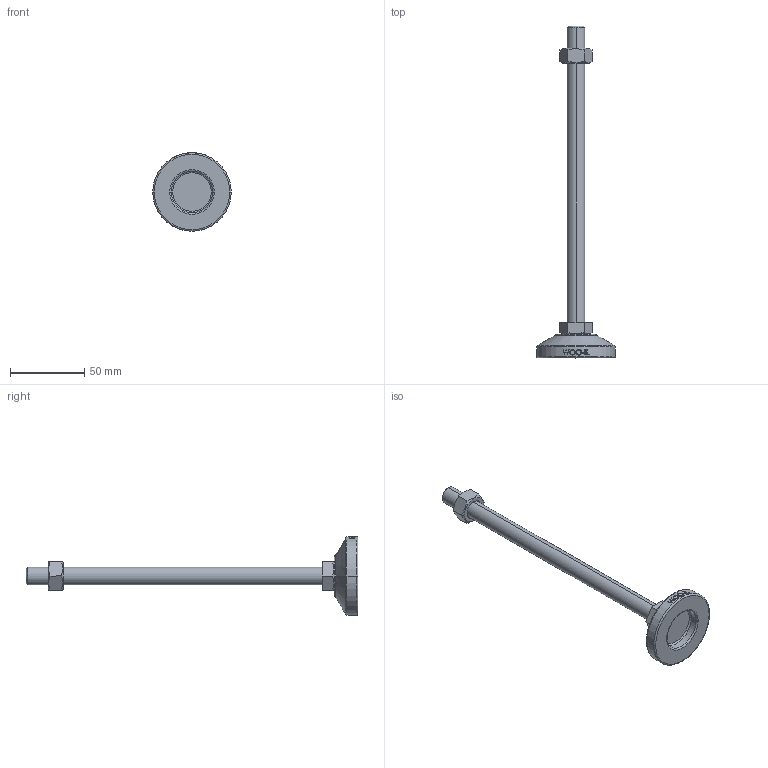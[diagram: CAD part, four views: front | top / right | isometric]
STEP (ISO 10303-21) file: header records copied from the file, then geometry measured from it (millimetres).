
FILE_DESCRIPTION (( 'STEP AP214' ), '1' );
FILE_NAME ('MF53-M12-200.step', '2021-02-03T08:16:31', ( '' ), ( '' ), 'SwSTEP 2.0', 'SolidWorks 2019', '' );
FILE_SCHEMA (( 'AUTOMOTIVE_DESIGN' ));
Length unit declared in the file: millimetre
Products named in the file (2): MF53-M12-200
Bounding box: 53 x 224 x 53 mm (x, y, z)
Volume: 50745.4 mm3; surface area: 16490 mm2
Topology: 3 solids, 3 shells, 106 faces, 243 edges, 154 vertices
Faces by surface type: plane 48, cylinder 18, bspline 16, cone 14, torus 10
Entity records: 4394 total; most frequent: CARTESIAN_POINT 2051, ORIENTED_EDGE 486, DIRECTION 439, EDGE_CURVE 243, AXIS2_PLACEMENT_3D 170, VERTEX_POINT 154, EDGE_LOOP 119, ADVANCED_FACE 106
